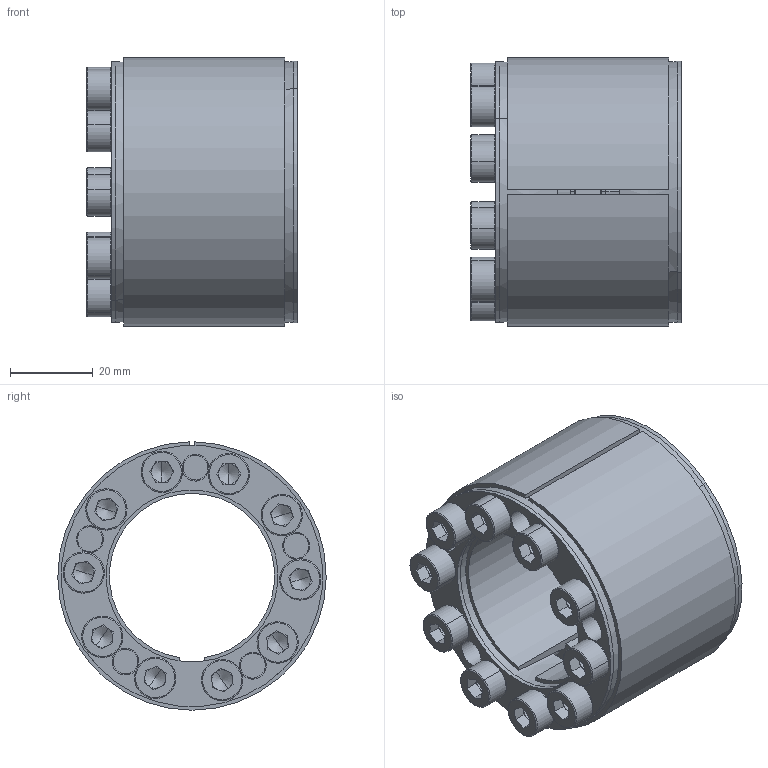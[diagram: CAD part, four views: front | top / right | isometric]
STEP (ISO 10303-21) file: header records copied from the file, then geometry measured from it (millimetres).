
FILE_DESCRIPTION (( 'STEP AP203' ), '1' );
FILE_NAME ('SAPL-D4-40-65.STEP', '2016-08-23T06:24:08', ( '' ), ( '' ), 'SwSTEP 2.0', 'SolidWorks 2015', '' );
FILE_SCHEMA (( 'CONFIG_CONTROL_DESIGN' ));
Length unit declared in the file: millimetre
Products named in the file (1): SAPL-D4-40-65
Bounding box: 50.97 x 65 x 64.99 mm (x, y, z)
Volume: 78489.5 mm3; surface area: 66358.2 mm2
Topology: 15 solids, 15 shells, 465 faces, 1070 edges, 640 vertices
Faces by surface type: cylinder 178, plane 173, torus 60, cone 54
Entity records: 13270 total; most frequent: DIRECTION 2524, CARTESIAN_POINT 2207, ORIENTED_EDGE 2100, EDGE_CURVE 1050, AXIS2_PLACEMENT_3D 1016, VERTEX_POINT 640, EDGE_LOOP 576, CIRCLE 550
